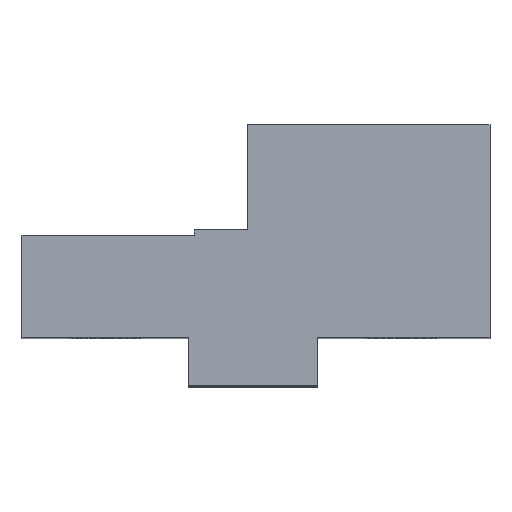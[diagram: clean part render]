
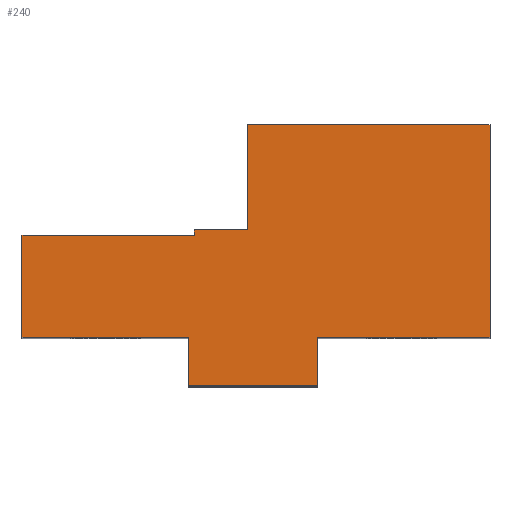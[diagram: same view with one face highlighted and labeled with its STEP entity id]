
A CAD part, top view. The second image highlights one B-rep face of the part: STEP entity #240.
In plain terms, the highlighted planar face has unit normal (0, 0, 1).
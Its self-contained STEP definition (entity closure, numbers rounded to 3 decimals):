
#60 = VERTEX_POINT ( 'NONE', #455 ) ;
#62 = EDGE_CURVE ( 'NONE', #139, #60, #454, .T. ) ;
#73 = VERTEX_POINT ( 'NONE', #397 ) ;
#75 = EDGE_CURVE ( 'NONE', #76, #73, #396, .T. ) ;
#76 = VERTEX_POINT ( 'NONE', #392 ) ;
#101 = VERTEX_POINT ( 'NONE', #412 ) ;
#103 = EDGE_CURVE ( 'NONE', #198, #101, #796, .T. ) ;
#114 = EDGE_CURVE ( 'NONE', #73, #198, #709, .T. ) ;
#139 = VERTEX_POINT ( 'NONE', #844 ) ;
#141 = EDGE_CURVE ( 'NONE', #206, #139, #843, .T. ) ;
#147 = EDGE_CURVE ( 'NONE', #370, #76, #835, .T. ) ;
#165 = VERTEX_POINT ( 'NONE', #798 ) ;
#167 = EDGE_CURVE ( 'NONE', #101, #165, #797, .T. ) ;
#176 = VERTEX_POINT ( 'NONE', #864 ) ;
#190 = EDGE_CURVE ( 'NONE', #165, #176, #683, .T. ) ;
#198 = VERTEX_POINT ( 'NONE', #780 ) ;
#206 = VERTEX_POINT ( 'NONE', #769 ) ;
#208 = EDGE_CURVE ( 'NONE', #176, #206, #768, .T. ) ;
#228 = VERTEX_POINT ( 'NONE', #721 ) ;
#230 = EDGE_CURVE ( 'NONE', #60, #228, #720, .T. ) ;
#239 = VERTEX_POINT ( 'NONE', #648 ) ;
#240 = ADVANCED_FACE ( 'NONE', ( #647 ), #960, .T. ) ;
#241 = EDGE_LOOP ( 'NONE', ( #242, #243, #244, #245, #246, #247, #248, #249, #349, #350, #351, #352 ) ) ;
#242 = ORIENTED_EDGE ( 'NONE', *, *, #75, .T. ) ;
#243 = ORIENTED_EDGE ( 'NONE', *, *, #114, .T. ) ;
#244 = ORIENTED_EDGE ( 'NONE', *, *, #103, .T. ) ;
#245 = ORIENTED_EDGE ( 'NONE', *, *, #167, .T. ) ;
#246 = ORIENTED_EDGE ( 'NONE', *, *, #190, .T. ) ;
#247 = ORIENTED_EDGE ( 'NONE', *, *, #208, .T. ) ;
#248 = ORIENTED_EDGE ( 'NONE', *, *, #141, .T. ) ;
#249 = ORIENTED_EDGE ( 'NONE', *, *, #62, .T. ) ;
#349 = ORIENTED_EDGE ( 'NONE', *, *, #230, .T. ) ;
#350 = ORIENTED_EDGE ( 'NONE', *, *, #361, .T. ) ;
#351 = ORIENTED_EDGE ( 'NONE', *, *, #372, .T. ) ;
#352 = ORIENTED_EDGE ( 'NONE', *, *, #147, .T. ) ;
#361 = EDGE_CURVE ( 'NONE', #228, #239, #969, .T. ) ;
#370 = VERTEX_POINT ( 'NONE', #1034 ) ;
#372 = EDGE_CURVE ( 'NONE', #239, #370, #1024, .T. ) ;
#392 = CARTESIAN_POINT ( 'NONE',  ( -43., 28., 62.2 ) ) ;
#393 = DIRECTION ( 'NONE',  ( 0., -1., 0. ) ) ;
#394 = VECTOR ( 'NONE', #393, 1000. ) ;
#395 = CARTESIAN_POINT ( 'NONE',  ( -43., 28., 62.2 ) ) ;
#396 = LINE ( 'NONE', #395, #394 ) ;
#397 = CARTESIAN_POINT ( 'NONE',  ( -43., 9., 62.2 ) ) ;
#412 = CARTESIAN_POINT ( 'NONE',  ( -12., 0., 62.2 ) ) ;
#452 = DIRECTION ( 'NONE',  ( -1., 0., 0. ) ) ;
#453 = CARTESIAN_POINT ( 'NONE',  ( 44., 48.5, 62.2 ) ) ;
#454 = LINE ( 'NONE', #453, #615 ) ;
#455 = CARTESIAN_POINT ( 'NONE',  ( -1., 48.5, 62.2 ) ) ;
#615 = VECTOR ( 'NONE', #452, 1000. ) ;
#647 = FACE_OUTER_BOUND ( 'NONE', #241, .T. ) ;
#648 = CARTESIAN_POINT ( 'NONE',  ( -11., 29., 62.2 ) ) ;
#680 = DIRECTION ( 'NONE',  ( 0., 1., 0. ) ) ;
#681 = VECTOR ( 'NONE', #680, 1000. ) ;
#682 = CARTESIAN_POINT ( 'NONE',  ( 12., 0., 62.2 ) ) ;
#683 = LINE ( 'NONE', #682, #681 ) ;
#706 = DIRECTION ( 'NONE',  ( 1., 0., 0. ) ) ;
#707 = VECTOR ( 'NONE', #706, 1000. ) ;
#708 = CARTESIAN_POINT ( 'NONE',  ( -43., 9., 62.2 ) ) ;
#709 = LINE ( 'NONE', #708, #707 ) ;
#717 = DIRECTION ( 'NONE',  ( 0., -1., 0. ) ) ;
#718 = VECTOR ( 'NONE', #717, 1000. ) ;
#719 = CARTESIAN_POINT ( 'NONE',  ( -1., 48.5, 62.2 ) ) ;
#720 = LINE ( 'NONE', #719, #718 ) ;
#721 = CARTESIAN_POINT ( 'NONE',  ( -1., 29., 62.2 ) ) ;
#765 = DIRECTION ( 'NONE',  ( 1., 0., 0. ) ) ;
#766 = VECTOR ( 'NONE', #765, 1000. ) ;
#767 = CARTESIAN_POINT ( 'NONE',  ( 12., 9., 62.2 ) ) ;
#768 = LINE ( 'NONE', #767, #766 ) ;
#769 = CARTESIAN_POINT ( 'NONE',  ( 44., 9., 62.2 ) ) ;
#780 = CARTESIAN_POINT ( 'NONE',  ( -12., 9., 62.2 ) ) ;
#793 = DIRECTION ( 'NONE',  ( 0., -1., 0. ) ) ;
#794 = VECTOR ( 'NONE', #793, 1000. ) ;
#795 = CARTESIAN_POINT ( 'NONE',  ( -12., 9., 62.2 ) ) ;
#796 = LINE ( 'NONE', #795, #794 ) ;
#797 = LINE ( 'NONE', #823, #822 ) ;
#798 = CARTESIAN_POINT ( 'NONE',  ( 12., 0., 62.2 ) ) ;
#821 = DIRECTION ( 'NONE',  ( 1., 0., 0. ) ) ;
#822 = VECTOR ( 'NONE', #821, 1000. ) ;
#823 = CARTESIAN_POINT ( 'NONE',  ( -12., 0., 62.2 ) ) ;
#832 = DIRECTION ( 'NONE',  ( -1., 0., 0. ) ) ;
#833 = VECTOR ( 'NONE', #832, 1000. ) ;
#834 = CARTESIAN_POINT ( 'NONE',  ( -43., 28., 62.2 ) ) ;
#835 = LINE ( 'NONE', #834, #833 ) ;
#840 = DIRECTION ( 'NONE',  ( 0., 1., 0. ) ) ;
#841 = VECTOR ( 'NONE', #840, 1000. ) ;
#842 = CARTESIAN_POINT ( 'NONE',  ( 44., 9., 62.2 ) ) ;
#843 = LINE ( 'NONE', #842, #841 ) ;
#844 = CARTESIAN_POINT ( 'NONE',  ( 44., 48.5, 62.2 ) ) ;
#864 = CARTESIAN_POINT ( 'NONE',  ( 12., 9., 62.2 ) ) ;
#890 = DIRECTION ( 'NONE',  ( 1., 0., 0. ) ) ;
#957 = DIRECTION ( 'NONE',  ( 0., 0., 1. ) ) ;
#958 = CARTESIAN_POINT ( 'NONE',  ( -43., 9., 62.2 ) ) ;
#959 = AXIS2_PLACEMENT_3D ( 'NONE', #958, #957, #890 ) ;
#960 = PLANE ( 'NONE',  #959 ) ;
#963 = DIRECTION ( 'NONE',  ( -1., 0., 0. ) ) ;
#964 = VECTOR ( 'NONE', #963, 1000. ) ;
#965 = CARTESIAN_POINT ( 'NONE',  ( -1., 29., 62.2 ) ) ;
#969 = LINE ( 'NONE', #965, #964 ) ;
#1024 = LINE ( 'NONE', #1026, #1025 ) ;
#1025 = VECTOR ( 'NONE', #1048, 1000. ) ;
#1026 = CARTESIAN_POINT ( 'NONE',  ( -11., 28., 62.2 ) ) ;
#1034 = CARTESIAN_POINT ( 'NONE',  ( -11., 28., 62.2 ) ) ;
#1048 = DIRECTION ( 'NONE',  ( 0., -1., 0. ) ) ;
